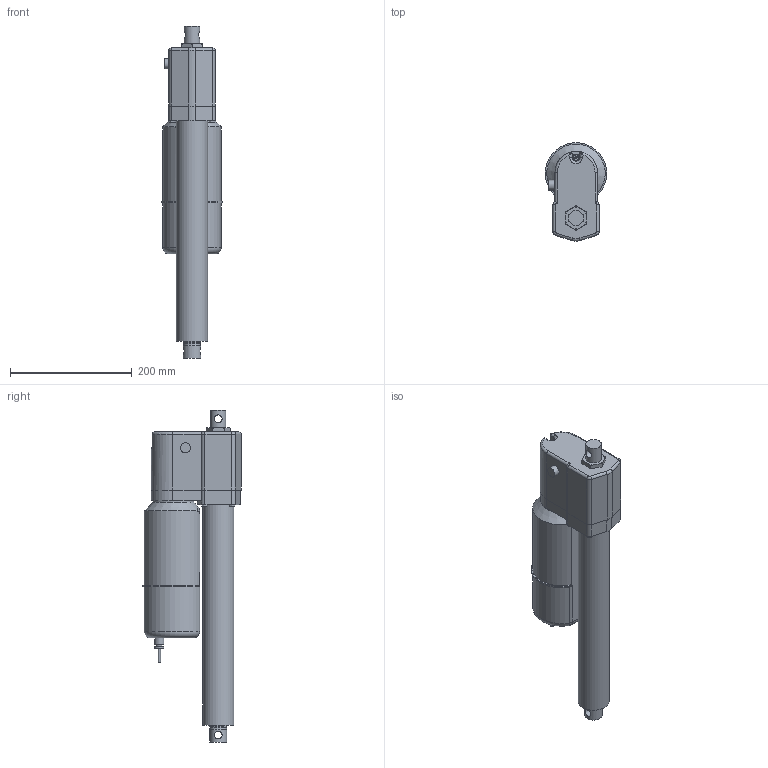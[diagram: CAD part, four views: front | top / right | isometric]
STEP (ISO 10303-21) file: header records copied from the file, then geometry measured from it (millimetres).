
FILE_DESCRIPTION (( 'STEP AP214' ), '1' );
FILE_NAME ('A22-05A5-12M0NPO-tollo.step', '2020-04-05T13:10:31', ( '' ), ( '' ), 'SwSTEP 2.0', 'SolidWorks 2010', '' );
FILE_SCHEMA (( 'AUTOMOTIVE_DESIGN' ));
Length unit declared in the file: millimetre
Products named in the file (7): Electrak-LA5-Motor-A22-05A5-12M0NPO-tollo_Electrak-LA5-Motor-A22-05A5-12M0NPO-tollo; Electrak-LA5-Rear-A22-05A5-12M0NPO-tollo_Electrak-LA5-Rear-A22-05A5-12M0NPO-tollo; Electrak-LA5-Tube-A22-05A5-12M0NPO-tollo_Electrak-LA5-Tube-A22-05A5-12M0NPO-tollo; Electrak-LA5-Rod-A22-05A5-12M0NPO-tollo_Electrak-LA5-Rod-A22-05A5-12M0NPO-tollo; Screw-MFX-H-M5-A22-05A5-12M0NPO-tollo_Screw-MFX-H-M5-A22-05A5-12M0NPO-tollo; Screw-M6S-M5-A22-05A5-12M0NPO-tollo_Screw-M6S-M5-A22-05A5-12M0NPO-tollo; A22-05A5-12M0NPO-tollo
Assembly tree (9 placements, depth 2):
  A22-05A5-12M0NPO-tollo
    Electrak-LA5-Rear-A22-05A5-12M0NPO-tollo_Electrak-LA5-Rear-A22-05A5-12M0NPO-tollo
    Electrak-LA5-Tube-A22-05A5-12M0NPO-tollo_Electrak-LA5-Tube-A22-05A5-12M0NPO-tollo
    Electrak-LA5-Rod-A22-05A5-12M0NPO-tollo_Electrak-LA5-Rod-A22-05A5-12M0NPO-tollo
    Screw-M6S-M5-A22-05A5-12M0NPO-tollo_Screw-M6S-M5-A22-05A5-12M0NPO-tollo  x4
    Screw-MFX-H-M5-A22-05A5-12M0NPO-tollo_Screw-MFX-H-M5-A22-05A5-12M0NPO-tollo
    Electrak-LA5-Motor-A22-05A5-12M0NPO-tollo_Electrak-LA5-Motor-A22-05A5-12M0NPO-tollo
Bounding box: 100.99 x 162.5 x 546.4 mm (x, y, z)
Volume: 3465822.6 mm3; surface area: 301468.2 mm2
Topology: 9 solids, 9 shells, 240 faces, 553 edges, 350 vertices
Faces by surface type: plane 96, cylinder 93, cone 31, torus 15, bspline 3, sphere 2
Full cylindrical faces by diameter (mm): 4 x1, 4.126 x5, 4.8 x2, 5 x13, 7.878 x4, 9.3 x1, 10 x1, 12.8 x2, 15 x2, 16.5 x1, 25.4 x1, 28.6 x4, 51.3 x1, 68 x1
Entity records: 5816 total; most frequent: CARTESIAN_POINT 1727, DIRECTION 814, ORIENTED_EDGE 670, AXIS2_PLACEMENT_3D 343, EDGE_CURVE 335, EDGE_LOOP 249, VERTEX_POINT 238, FACE_OUTER_BOUND 201
